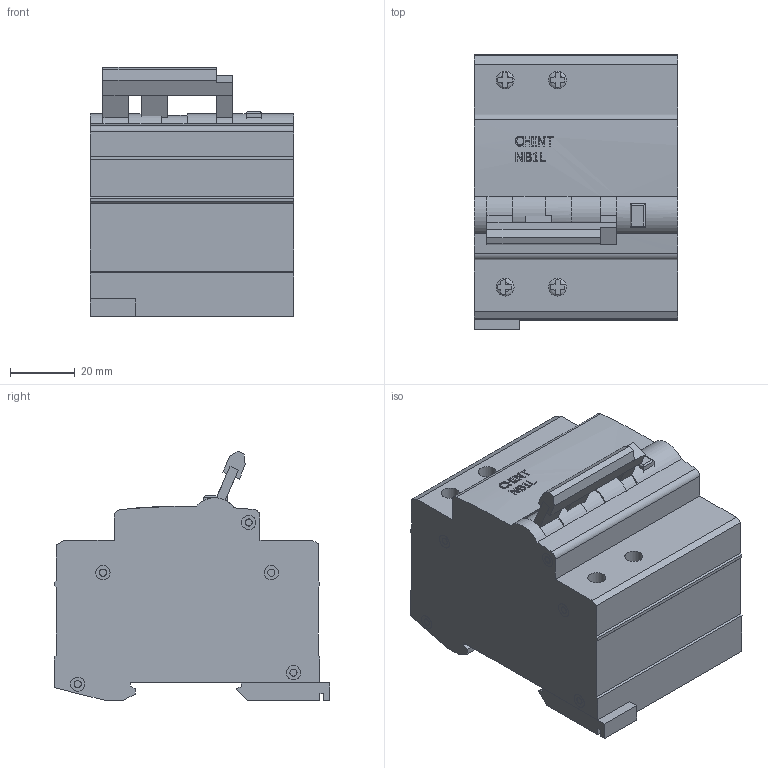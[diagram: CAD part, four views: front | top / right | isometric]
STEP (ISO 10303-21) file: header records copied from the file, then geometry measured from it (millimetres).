
FILE_DESCRIPTION(/* description */ (''),/* implementation_level */ '2;1');
FILE_NAME(/* name */ 'D:\CHINT\NB1L\Диф. автомат NB1L-40 2P C6 30mA тип A 6kA (R) (CHINT).stp',/* time_stamp */ '2017-09-24T19:13:29+04:00',/* author */ ('RSagdiev'),/* organization */ (''),/* preprocessor_version */ 'ST-DEVELOPER v16.5',/* originating_system */ 'Autodesk Inventor 2017',/* authorisation */ '');
FILE_SCHEMA (('AUTOMOTIVE_DESIGN { 1 0 10303 214 3 1 1 }'));
Length unit declared in the file: millimetre
Products named in the file (1): Диф. автомат NB1L-40 2P
 C6 30mA тип A 6kA (R) (CHINT)
Bounding box: 63 x 85 x 76.99 mm (x, y, z)
Volume: 269919 mm3; surface area: 33857.6 mm2
Topology: 11 solids, 11 shells, 355 faces, 873 edges, 578 vertices
Faces by surface type: plane 265, cylinder 55, bspline 35
Full cylindrical faces by diameter (mm): 2.1 x2, 2.2 x10, 4.4 x10, 5.5 x4, 13.596 x1
Entity records: 11073 total; most frequent: CARTESIAN_POINT 2800, ORIENTED_EDGE 1690, DIRECTION 1608, EDGE_CURVE 845, VERTEX_POINT 577, AXIS2_PLACEMENT_3D 537, LINE 534, VECTOR 534
